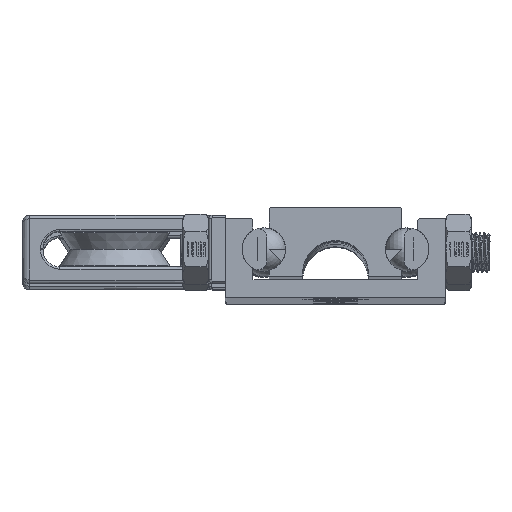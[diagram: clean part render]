
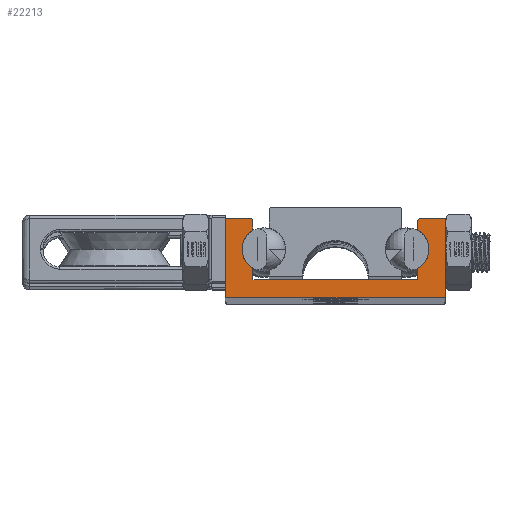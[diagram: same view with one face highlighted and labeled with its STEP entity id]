
A CAD part, top view. The second image highlights one B-rep face of the part: STEP entity #22213.
In plain terms, the highlighted planar face has unit normal (0, 0, 1).
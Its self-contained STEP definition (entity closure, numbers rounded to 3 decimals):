
#21369=CARTESIAN_POINT('',(7.5,1.6,355.6));
#21370=VERTEX_POINT('',#21369);
#21377=CARTESIAN_POINT('',(7.5,2.677,355.6));
#21378=VERTEX_POINT('',#21377);
#21379=CARTESIAN_POINT('',(7.5,2.677,355.6));
#21380=DIRECTION('',(0.,-1.,0.));
#21381=VECTOR('',#21380,1.077);
#21382=LINE('',#21379,#21381);
#21383=EDGE_CURVE('',#21378,#21370,#21382,.T.);
#21409=CARTESIAN_POINT('',(-7.5,2.677,355.6));
#21410=VERTEX_POINT('',#21409);
#21417=CARTESIAN_POINT('',(-7.5,1.6,355.6));
#21418=VERTEX_POINT('',#21417);
#21419=CARTESIAN_POINT('',(-7.5,1.6,355.6));
#21420=DIRECTION('',(0.,1.,0.));
#21421=VECTOR('',#21420,1.077);
#21422=LINE('',#21419,#21421);
#21423=EDGE_CURVE('',#21418,#21410,#21422,.T.);
#21449=CARTESIAN_POINT('',(7.5,6.123,355.6));
#21450=VERTEX_POINT('',#21449);
#21451=CARTESIAN_POINT('',(6.516,4.4,355.6));
#21452=DIRECTION('',(0.496,0.868,0.));
#21453=DIRECTION('',(0.,0.,-1.));
#21454=AXIS2_PLACEMENT_3D('',#21451,#21453,#21452);
#21455=CIRCLE('',#21454,1.985);
#21456=EDGE_CURVE('',#21450,#21378,#21455,.T.);
#21573=CARTESIAN_POINT('',(-7.5,6.123,355.6));
#21574=VERTEX_POINT('',#21573);
#21581=CARTESIAN_POINT('',(-6.516,4.4,355.6));
#21582=DIRECTION('',(-0.496,-0.868,0.));
#21583=DIRECTION('',(0.,0.,-1.));
#21584=AXIS2_PLACEMENT_3D('',#21581,#21583,#21582);
#21585=CIRCLE('',#21584,1.985);
#21586=EDGE_CURVE('',#21410,#21574,#21585,.T.);
#21907=CARTESIAN_POINT('',(7.7,7.2,355.6));
#21908=VERTEX_POINT('',#21907);
#21915=CARTESIAN_POINT('',(9.8,7.2,355.6));
#21916=VERTEX_POINT('',#21915);
#21917=CARTESIAN_POINT('',(9.8,7.2,355.6));
#21918=DIRECTION('',(-1.,0.,0.));
#21919=VECTOR('',#21918,2.1);
#21920=LINE('',#21917,#21919);
#21921=EDGE_CURVE('',#21916,#21908,#21920,.T.);
#21937=CARTESIAN_POINT('',(7.5,7.,355.6));
#21938=VERTEX_POINT('',#21937);
#21939=CARTESIAN_POINT('',(7.5,7.,355.6));
#21940=DIRECTION('',(0.,-1.,0.));
#21941=VECTOR('',#21940,0.877);
#21942=LINE('',#21939,#21941);
#21943=EDGE_CURVE('',#21938,#21450,#21942,.T.);
#21976=CARTESIAN_POINT('',(-7.5,7.,355.6));
#21977=VERTEX_POINT('',#21976);
#21984=CARTESIAN_POINT('',(-7.5,6.123,355.6));
#21985=DIRECTION('',(0.,1.,0.));
#21986=VECTOR('',#21985,0.877);
#21987=LINE('',#21984,#21986);
#21988=EDGE_CURVE('',#21574,#21977,#21987,.T.);
#22009=CARTESIAN_POINT('',(-9.8,7.2,355.6));
#22010=VERTEX_POINT('',#22009);
#22017=CARTESIAN_POINT('',(-7.7,7.2,355.6));
#22018=VERTEX_POINT('',#22017);
#22019=CARTESIAN_POINT('',(-7.7,7.2,355.6));
#22020=DIRECTION('',(-1.,0.,0.));
#22021=VECTOR('',#22020,2.1);
#22022=LINE('',#22019,#22021);
#22023=EDGE_CURVE('',#22018,#22010,#22022,.T.);
#22049=CARTESIAN_POINT('',(10.,7.,355.6));
#22050=VERTEX_POINT('',#22049);
#22051=CARTESIAN_POINT('',(9.8,7.,355.6));
#22052=DIRECTION('',(1.,0.,0.));
#22053=DIRECTION('',(0.,0.,1.));
#22054=AXIS2_PLACEMENT_3D('',#22051,#22053,#22052);
#22055=CIRCLE('',#22054,0.2);
#22056=EDGE_CURVE('',#22050,#21916,#22055,.T.);
#22080=CARTESIAN_POINT('',(7.7,7.,355.6));
#22081=DIRECTION('',(0.,1.,0.));
#22082=DIRECTION('',(0.,0.,1.));
#22083=AXIS2_PLACEMENT_3D('',#22080,#22082,#22081);
#22084=CIRCLE('',#22083,0.2);
#22085=EDGE_CURVE('',#21908,#21938,#22084,.T.);
#22104=CARTESIAN_POINT('',(-7.7,7.,355.6));
#22105=DIRECTION('',(1.,0.,0.));
#22106=DIRECTION('',(0.,0.,1.));
#22107=AXIS2_PLACEMENT_3D('',#22104,#22106,#22105);
#22108=CIRCLE('',#22107,0.2);
#22109=EDGE_CURVE('',#21977,#22018,#22108,.T.);
#22129=CARTESIAN_POINT('',(-10.,7.,355.6));
#22130=VERTEX_POINT('',#22129);
#22137=CARTESIAN_POINT('',(-9.8,7.,355.6));
#22138=DIRECTION('',(0.,1.,0.));
#22139=DIRECTION('',(0.,0.,1.));
#22140=AXIS2_PLACEMENT_3D('',#22137,#22139,#22138);
#22141=CIRCLE('',#22140,0.2);
#22142=EDGE_CURVE('',#22010,#22130,#22141,.T.);
#22148=CARTESIAN_POINT('',(0.,10.,355.6));
#22149=DIRECTION('',(1.,0.,0.));
#22150=DIRECTION('',(0.,0.,1.));
#22151=AXIS2_PLACEMENT_3D('',#22148,#22150,#22149);
#22152=PLANE('',#22151);
#22153=ORIENTED_EDGE('',*,*,#22056,.T.);
#22154=ORIENTED_EDGE('',*,*,#21921,.T.);
#22155=ORIENTED_EDGE('',*,*,#22085,.T.);
#22156=ORIENTED_EDGE('',*,*,#21943,.T.);
#22157=ORIENTED_EDGE('',*,*,#21456,.T.);
#22158=ORIENTED_EDGE('',*,*,#21383,.T.);
#22159=CARTESIAN_POINT('',(7.5,1.6,355.6));
#22160=DIRECTION('',(-1.,0.,0.));
#22161=VECTOR('',#22160,15.);
#22162=LINE('',#22159,#22161);
#22163=EDGE_CURVE('',#21370,#21418,#22162,.T.);
#22164=ORIENTED_EDGE('E19',*,*,#22163,.T.);
#22165=ORIENTED_EDGE('E19',*,*,#21423,.T.);
#22166=ORIENTED_EDGE('E19',*,*,#21586,.T.);
#22167=ORIENTED_EDGE('E19',*,*,#21988,.T.);
#22168=ORIENTED_EDGE('E19',*,*,#22109,.T.);
#22169=ORIENTED_EDGE('E19',*,*,#22023,.T.);
#22170=ORIENTED_EDGE('E19',*,*,#22142,.T.);
#22171=CARTESIAN_POINT('',(-10.,0.1,355.6));
#22172=VERTEX_POINT('',#22171);
#22173=CARTESIAN_POINT('',(-10.,7.,355.6));
#22174=DIRECTION('',(0.,-1.,0.));
#22175=VECTOR('',#22174,6.9);
#22176=LINE('',#22173,#22175);
#22177=EDGE_CURVE('',#22130,#22172,#22176,.T.);
#22178=ORIENTED_EDGE('E24',*,*,#22177,.T.);
#22179=CARTESIAN_POINT('',(-9.9,0.,355.6));
#22180=VERTEX_POINT('',#22179);
#22181=CARTESIAN_POINT('',(-9.9,0.1,355.6));
#22182=DIRECTION('',(-1.,0.,0.));
#22183=DIRECTION('',(0.,0.,1.));
#22184=AXIS2_PLACEMENT_3D('',#22181,#22183,#22182);
#22185=CIRCLE('',#22184,0.1);
#22186=EDGE_CURVE('',#22172,#22180,#22185,.T.);
#22187=ORIENTED_EDGE('E80',*,*,#22186,.T.);
#22188=CARTESIAN_POINT('',(9.9,0.,355.6));
#22189=VERTEX_POINT('',#22188);
#22190=CARTESIAN_POINT('',(9.9,0.,355.6));
#22191=DIRECTION('',(-1.,0.,0.));
#22192=VECTOR('',#22191,19.8);
#22193=LINE('',#22190,#22192);
#22194=EDGE_CURVE('',#22189,#22180,#22193,.T.);
#22195=ORIENTED_EDGE('E13',*,*,#22194,.F.);
#22196=CARTESIAN_POINT('',(10.,0.1,355.6));
#22197=VERTEX_POINT('',#22196);
#22198=CARTESIAN_POINT('',(9.9,0.1,355.6));
#22199=DIRECTION('',(0.,-1.,0.));
#22200=DIRECTION('',(0.,0.,1.));
#22201=AXIS2_PLACEMENT_3D('',#22198,#22200,#22199);
#22202=CIRCLE('',#22201,0.1);
#22203=EDGE_CURVE('',#22189,#22197,#22202,.T.);
#22204=ORIENTED_EDGE('E77',*,*,#22203,.T.);
#22205=CARTESIAN_POINT('',(10.,0.1,355.6));
#22206=DIRECTION('',(0.,1.,0.));
#22207=VECTOR('',#22206,6.9);
#22208=LINE('',#22205,#22207);
#22209=EDGE_CURVE('',#22197,#22050,#22208,.T.);
#22210=ORIENTED_EDGE('E14',*,*,#22209,.T.);
#22211=EDGE_LOOP('',(#22153,#22154,#22155,#22156,#22157,#22158,#22164,#22165,#22166,#22167,#22168,#22169,#22170,#22178,#22187,#22195,#22204,#22210));
#22212=FACE_OUTER_BOUND('',#22211,.T.);
#22213=ADVANCED_FACE('F18',(#22212),#22152,.T.);
